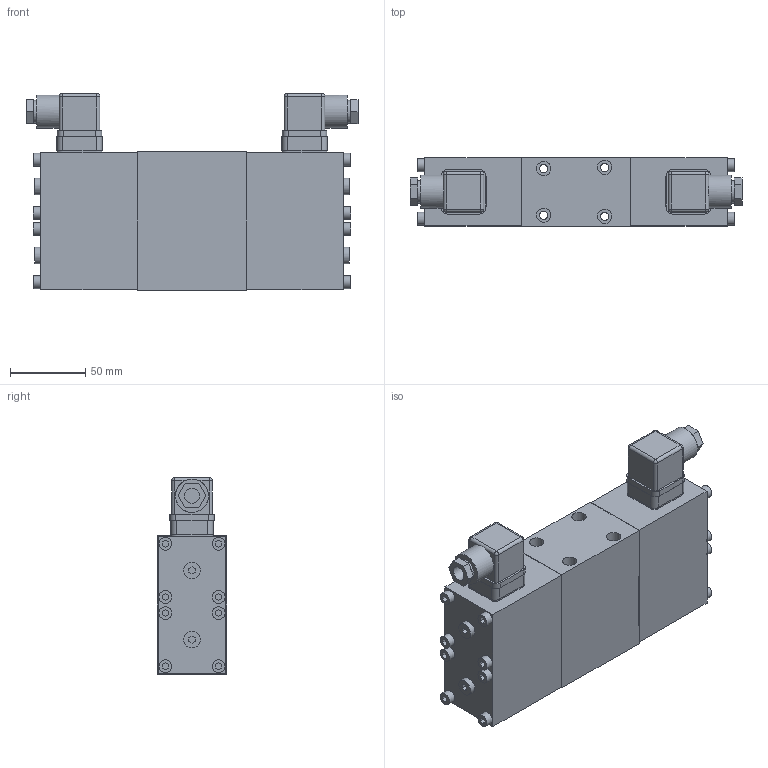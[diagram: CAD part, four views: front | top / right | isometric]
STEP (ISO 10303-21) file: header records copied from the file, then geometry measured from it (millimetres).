
FILE_DESCRIPTION(('Bauteilbeschreibung','HiCAD-Model','HiCAD-STEP-TRANSLATION','Bauteilbeschreibung'),'2;1');
FILE_NAME('D:/A_4306.STP','2006-09-29T10:50:43+00:00',('Konstrukteur'),('Konstrukteur Firma GmbH'),'HiCAD3 V1210 STEP 1.6.2005','HiCAD3 V1210','confidential');
FILE_SCHEMA(('AUTOMOTIVE_DESIGN { 1 2 10303 214 0 1 1 1 }'));
Length unit declared in the file: millimetre
Products named in the file (45): A_4306; A04306; A2E0B4E5; A68C33BE; CD7D61E2; A040EC12; F134825D; F134825D0; CA9517B3; CA9517B30; DICHTUNG; CD7D61E20; A040EC120; F134825D1; F134825D2; CA9517B31; CA9517B32; DICHTUNG0; CD7D61E21; A040EC121; F134825D3; F134825D4; CA9517B33; CA9517B34; DICHTUNG1; IN6KTM5; IN6KTM50; IN6KTM51; IN6KTM52; IN6KTM53; IN6KTM54; IN6KTM55; IN6KTM56; IN6KTM57; IN6KTM58; IN6KTM59; IN6KTM510; IN6KTM511; IN6KTM512; IN6KTM513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
Assembly tree (44 placements, depth 6):
  A_4306
    A04306
      A2E0B4E5
        A68C33BE
        CD7D61E2
          A040EC12
          F134825D
          F134825D0
          CA9517B3
          CA9517B30
            DICHTUNG
        CD7D61E20
          A040EC120
          F134825D1
          F134825D2
          CA9517B31
          CA9517B32
            DICHTUNG0
        CD7D61E21
          A040EC121
          F134825D3
          F134825D4
          CA9517B33
          CA9517B34
            DICHTUNG1
        IN6KTM5
          IN6KTM50
          IN6KTM51
          IN6KTM52
          IN6KTM53
          IN6KTM54
          IN6KTM55
          IN6KTM56
          IN6KTM57
        IN6KTM58
          IN6KTM59
          IN6KTM510
          IN6KTM511
          IN6KTM512
          IN6KTM513
          IN6KTM514
          IN6KTM515
          IN6KTM516
        D82DEE49
        D82DEE490
Bounding box: 220.35 x 46 x 130.5 mm (x, y, z)
Volume: 1131664.7 mm3; surface area: 183745.3 mm2
Topology: 43 solids, 43 shells, 697 faces, 1581 edges, 1064 vertices
Faces by surface type: plane 456, cylinder 215, cone 12, sphere 8, torus 6
Full cylindrical faces by diameter (mm): 1.5 x9, 3 x9, 4.9 x6, 5 x16, 5.5 x28, 6.5 x6, 6.8 x6, 8 x12, 8.5 x16, 9.5 x4, 9.8 x6, 10 x2, 11 x6, 12.5 x4, 15 x5, 22 x2, 26 x6
Entity records: 31598 total; most frequent: DIRECTION 3326, CARTESIAN_POINT 3301, ORIENTED_EDGE 2632, COLOUR_RGB 2047, PRESENTATION_STYLE_ASSIGNMENT 2047, OVER_RIDING_STYLED_ITEM 2013, CURVE_STYLE 1316, DRAUGHTING_PRE_DEFINED_CURVE_FONT 1316
